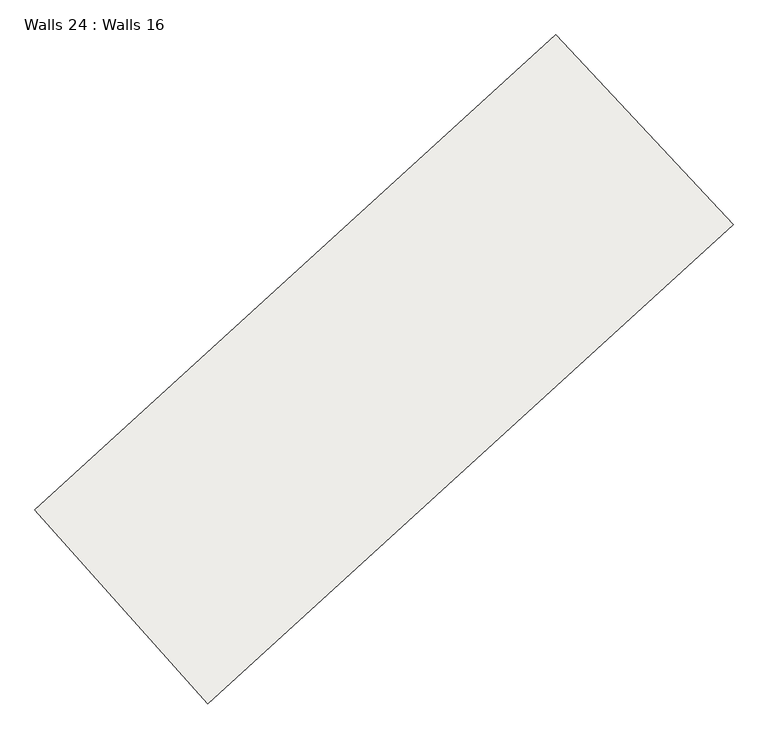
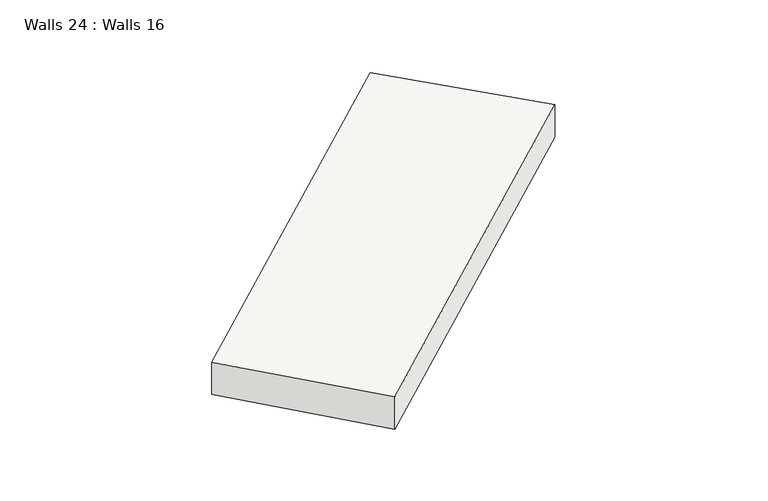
"""IFC4 building model written with IfcOpenShell, lengths in millimetres: slab geometry, Walls 24 : Walls 16."""

from ifc_helpers import new_model, si_unit, frame, origin, place, context, project, spatial, source, transform, mapped, element, save
from ifc_brep_helpers import plane_surface, spline_curve, spline_surface, advanced_brep


def walls_24_walls_16_5db56c33(model_context):
    return source(origin(), model_context, "Body", "AdvancedBrep", [
        advanced_brep(
        [(-244291.0700433, -407226.7734265, 635270.0), (-244291.0700433, -407226.7734265, 634620.0), (-246474.588578, -404891.4254155, 634620.0), (-246474.588578, -404891.4254155, 635270.0), (-250760.0236526, -413130.2868078, 635200.0), (-252887.0936207, -410742.1601571, 635200.0), (-252887.0936207, -410742.1601571, 634550.0), (-250760.0236526, -413130.2868078, 634550.0)],
        [
            (0, 1),
            (1, 2),
            (2, 3),
            (3, 0),
            (4, 5),
            (5, 6),
            (6, 7),
            (7, 4),
            (7, 1, spline_curve(3, [(-250760.0236526, -413130.2868078, 634550.0), (-248580.032689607, -411188.600295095, 634573.333332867), (-246423.504926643, -409220.570954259, 634596.666667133), (-244291.0700433, -407226.7734265, 634620.0)], [4, 4], [0.0, 28.734336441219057])),
            (0, 4, spline_curve(3, [(-244291.0700433, -407226.7734265, 635270.0), (-246423.504926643, -409220.570954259, 635246.666667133), (-248580.032689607, -411188.600295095, 635223.333332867), (-250760.0236526, -413130.2868078, 635200.0)], [4, 4], [0.0, 28.734336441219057])),
            (6, 2, spline_curve(3, [(-252887.0936207, -410742.1601571, 634550.0), (-250726.133309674, -408817.840818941, 634573.333333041), (-248588.423526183, -406867.406114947, 634596.666666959), (-246474.588578, -404891.4254155, 634620.0)], [4, 4], [0.0, 28.60757768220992])),
            (5, 3, spline_curve(3, [(-252887.0936207, -410742.1601571, 635200.0), (-250726.133310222, -408817.840819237, 635223.333333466), (-248588.423526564, -406867.406114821, 635246.666666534), (-246474.588578, -404891.4254155, 635270.0)], [4, 4], [0.0, 28.480819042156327])),
        ],
        [
            plane_surface(frame((-245382.8293106, -406059.099421, 634945.0), z_axis=(0.7304526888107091, 0.6829633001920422, 0.0), x_axis=(-0.6829633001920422, 0.7304526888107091, 0.0))),
            plane_surface(frame((-251823.5586367, -411936.2234824, 634875.0), z_axis=(-0.7467427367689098, -0.6651129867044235, 0.0), x_axis=(0.0, 0.0, -1.0))),
            spline_surface(3, 3, [[(-250760.0236526, -413130.2868078, 635200.0), (-248580.032689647, -411188.60029521, 635223.333333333), (-246423.504926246, -409220.570954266, 635246.666666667), (-244291.0700433, -407226.7734265, 635270.0)], [(-250760.0236526, -413130.2868078, 634983.333333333), (-248580.032689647, -411188.60029521, 635006.666666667), (-246423.504926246, -409220.570954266, 635030.0), (-244291.0700433, -407226.7734265, 635053.333333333)], [(-250760.0236526, -413130.2868078, 634766.666666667), (-248580.032689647, -411188.60029521, 634790.0), (-246423.504926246, -409220.570954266, 634813.333333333), (-244291.0700433, -407226.7734265, 634836.666666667)], [(-250760.0236526, -413130.2868078, 634550.0), (-248580.032689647, -411188.60029521, 634573.333333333), (-246423.504926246, -409220.570954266, 634596.666666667), (-244291.0700433, -407226.7734265, 634620.0)]], [4, 4], [4, 4], [0.0, 2.1325459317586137], [0.0, 28.734336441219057]),
            spline_surface(3, 3, [[(-250760.0236526, -413130.2868078, 634550.0), (-248580.032689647, -411188.60029521, 634573.333333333), (-246423.504926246, -409220.570954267, 634596.666666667), (-244291.0700433, -407226.7734265, 634620.0)], [(-251469.046975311, -412334.244590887, 634550.0), (-249295.399563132, -410398.347136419, 634573.333333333), (-247145.144459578, -408436.182674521, 634596.666666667), (-245018.909554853, -406448.32408949, 634620.0)], [(-252178.070297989, -411538.202374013, 634550.0), (-250010.766436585, -409608.093977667, 634573.333333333), (-247866.783992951, -407651.794394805, 634596.666666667), (-245746.749066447, -405669.87475251, 634620.0)], [(-252887.0936207, -410742.1601571, 634550.0), (-250726.133310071, -408817.840818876, 634573.333333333), (-248588.423526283, -406867.406115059, 634596.666666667), (-246474.588578, -404891.4254155, 634620.0)]], [4, 4], [4, 4], [0.0, 10.490784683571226], [0.0, 28.60757768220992]),
            spline_surface(3, 3, [[(-252887.0936207, -410742.1601571, 634550.0), (-250726.133310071, -408817.840818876, 634573.333333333), (-248588.423526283, -406867.406115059, 634596.666666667), (-246474.588578, -404891.4254155, 634620.0)], [(-252887.0936207, -410742.1601571, 634766.666666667), (-250726.133310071, -408817.840818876, 634790.0), (-248588.423526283, -406867.406115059, 634813.333333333), (-246474.588578, -404891.4254155, 634836.666666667)], [(-252887.0936207, -410742.1601571, 634983.333333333), (-250726.133310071, -408817.840818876, 635006.666666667), (-248588.423526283, -406867.406115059, 635030.0), (-246474.588578, -404891.4254155, 635053.333333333)], [(-252887.0936207, -410742.1601571, 635200.0), (-250726.133310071, -408817.840818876, 635223.333333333), (-248588.423526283, -406867.406115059, 635246.666666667), (-246474.588578, -404891.4254155, 635270.0)]], [4, 4], [4, 4], [0.0, 2.1325459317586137], [0.0, 28.480819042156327]),
            spline_surface(3, 3, [[(-252887.0936207, -410742.1601571, 635200.0), (-250726.133310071, -408817.840818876, 635223.333333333), (-248588.423526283, -406867.406115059, 635246.666666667), (-246474.588578, -404891.4254155, 635270.0)], [(-252178.070297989, -411538.202374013, 635200.0), (-250010.766436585, -409608.093977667, 635223.333333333), (-247866.783992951, -407651.794394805, 635246.666666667), (-245746.749066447, -405669.87475251, 635270.0)], [(-251469.046975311, -412334.244590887, 635200.0), (-249295.399563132, -410398.347136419, 635223.333333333), (-247145.144459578, -408436.182674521, 635246.666666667), (-245018.909554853, -406448.32408949, 635270.0)], [(-250760.0236526, -413130.2868078, 635200.0), (-248580.032689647, -411188.60029521, 635223.333333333), (-246423.504926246, -409220.570954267, 635246.666666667), (-244291.0700433, -407226.7734265, 635270.0)]], [4, 4], [4, 4], [0.0, 10.490784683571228], [0.0, 28.60757768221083]),
        ],
        [
            (0, [[1, 2, 3, 4]]),
            (1, [[5, 6, 7, 8]]),
            (2, [[-8, 9, -1, 10]]),
            (3, [[-7, 11, -2, -9]]),
            (4, [[-6, 12, -3, -11]]),
            (5, [[-5, -10, -4, -12]]),
        ],
    ),
    ])


if __name__ == "__main__":
    model = new_model("IFC4")
    model_context = context("Model", 3, world=origin())
    ifc_project = project(units=[si_unit("LENGTHUNIT", "METRE", prefix="MILLI")], contexts=[model_context])
    site = spatial("IfcSite", under=ifc_project)
    building = spatial("IfcBuilding", under=site)
    placement = place(None, origin())
    walls_24_walls_16_shape = walls_24_walls_16_5db56c33(model_context)
    element("IfcSlab", 1, ObjectType="Walls 24 : Walls 16", at=placement, inside=building, context=model_context, shape_type="MappedRepresentation", body=[
        mapped(walls_24_walls_16_shape, transform((0.0, 0.0, 0.0), x_axis=(1.0, 0.0, 0.0), y_axis=(0.0, 1.0, 0.0), z_axis=(0.0, 0.0, 1.0))),
    ])
    save(model, "model.ifc")
